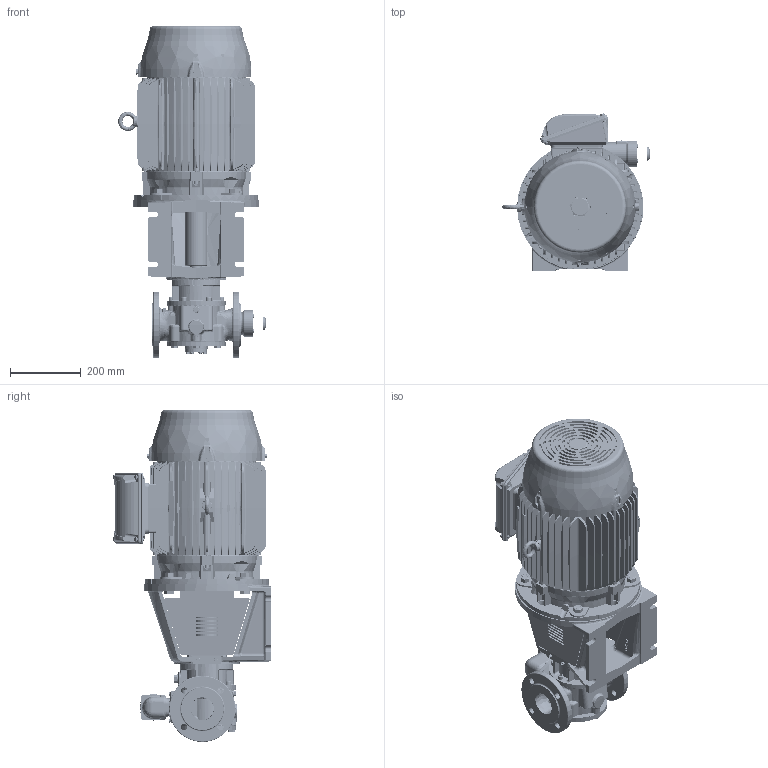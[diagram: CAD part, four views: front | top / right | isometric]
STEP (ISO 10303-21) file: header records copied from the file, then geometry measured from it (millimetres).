
FILE_DESCRIPTION(/* description */ (''),/* implementation_level */ '2;1');
FILE_NAME(/* name */ 'C:\V\JPP\Designs\GEAR PUMPS\PRODUCT ENGINEERING\EUROPE\TG BLOC\TG BLOC_23-65_R5_O_RV1-_160M-STEP.stp',/* time_stamp */ '2021-03-18T15:33:27+01:00',/* author */ ('A77THR'),/* organization */ (''),/* preprocessor_version */ 'ST-DEVELOPER v18.1',/* originating_system */ 'Autodesk Inventor 2020',/* authorisation */ '');
FILE_SCHEMA (('AUTOMOTIVE_DESIGN { 1 0 10303 214 3 1 1 }'));
Length unit declared in the file: millimetre
Products named in the file (1): TG BLOC_23-65_R5_O_RV1-_160M
Bounding box: 415.99 x 444.6 x 936 mm (x, y, z)
Volume: 45076844.3 mm3; surface area: 2386113.6 mm2
Topology: 1 solids, 1 shells, 5233 faces, 13560 edges, 8469 vertices
Faces by surface type: plane 2018, bspline 1210, cylinder 1170, cone 599, torus 184, sphere 52
Full cylindrical faces by diameter (mm): 4 x1, 4.5 x8, 4.917 x8, 5 x2, 5.459 x22, 6 x22, 6.647 x1, 7 x26, 7.5 x3, 8 x13, 8.376 x5, 8.5 x2, 8.7 x22, 9.188 x4, 9.4 x1, 10 x12, 10.5 x1, 11.445 x2, 11.5 x4, 11.6 x7, 12 x3, 12.5 x3, 13 x4, 14 x1, 15.011 x3, 15.4 x10, 16 x6, 17.9 x3, 18 x11, 19 x3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
Entity records: 226001 total; most frequent: CARTESIAN_POINT 102313, ORIENTED_EDGE 26818, DIRECTION 22572, EDGE_CURVE 13409, AXIS2_PLACEMENT_3D 8801, VERTEX_POINT 8469, EDGE_LOOP 5668, FACE_OUTER_BOUND 5233
